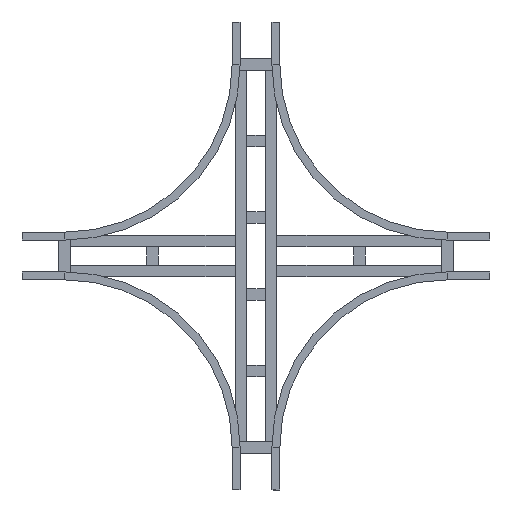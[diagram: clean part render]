
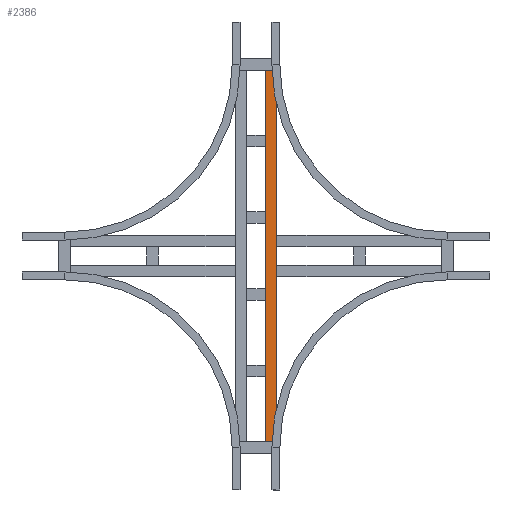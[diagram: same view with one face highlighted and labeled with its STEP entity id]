
A CAD part, front view. The second image highlights one B-rep face of the part: STEP entity #2386.
In plain terms, the highlighted planar face has unit normal (0, -1, 0).
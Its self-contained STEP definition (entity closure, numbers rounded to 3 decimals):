
#45 = LINE ( 'NONE', #2309, #1811 ) ;
#63 = FACE_OUTER_BOUND ( 'NONE', #1919, .T. ) ;
#91 = LINE ( 'NONE', #2608, #309 ) ;
#155 = DIRECTION ( 'NONE',  ( -1., 0., 0. ) ) ;
#232 = VERTEX_POINT ( 'NONE', #2638 ) ;
#309 = VECTOR ( 'NONE', #2225, 1000. ) ;
#382 = CARTESIAN_POINT ( 'NONE',  ( -654.75, 0., -20.25 ) ) ;
#444 = VECTOR ( 'NONE', #2651, 1000. ) ;
#472 = PLANE ( 'NONE',  #587 ) ;
#535 = VERTEX_POINT ( 'NONE', #2580 ) ;
#587 = AXIS2_PLACEMENT_3D ( 'NONE', #1326, #1301, #916 ) ;
#644 = VERTEX_POINT ( 'NONE', #382 ) ;
#902 = DIRECTION ( 'NONE',  ( 0., 0., -1. ) ) ;
#916 = DIRECTION ( 'NONE',  ( 0., 0., 1. ) ) ;
#1039 = VECTOR ( 'NONE', #155, 1000. ) ;
#1165 = LINE ( 'NONE', #1997, #1039 ) ;
#1301 = DIRECTION ( 'NONE',  ( 0., 1., 0. ) ) ;
#1326 = CARTESIAN_POINT ( 'NONE',  ( 654.75, 0., 20.25 ) ) ;
#1366 = LINE ( 'NONE', #1815, #444 ) ;
#1774 = CARTESIAN_POINT ( 'NONE',  ( 654.75, 0., -20.25 ) ) ;
#1811 = VECTOR ( 'NONE', #902, 1000. ) ;
#1815 = CARTESIAN_POINT ( 'NONE',  ( 654.75, 0., 20.25 ) ) ;
#1919 = EDGE_LOOP ( 'NONE', ( #2632, #2014, #2512, #2571 ) ) ;
#1997 = CARTESIAN_POINT ( 'NONE',  ( 654.75, 0., 20.25 ) ) ;
#2014 = ORIENTED_EDGE ( 'NONE', *, *, #2535, .F. ) ;
#2106 = EDGE_CURVE ( 'NONE', #232, #535, #1165, .T. ) ;
#2225 = DIRECTION ( 'NONE',  ( -1., 0., 0. ) ) ;
#2309 = CARTESIAN_POINT ( 'NONE',  ( -654.75, 0., 20.25 ) ) ;
#2386 = ADVANCED_FACE ( 'NONE', ( #63 ), #472, .F. ) ;
#2469 = EDGE_CURVE ( 'NONE', #535, #644, #45, .T. ) ;
#2512 = ORIENTED_EDGE ( 'NONE', *, *, #2635, .F. ) ;
#2535 = EDGE_CURVE ( 'NONE', #2616, #644, #91, .T. ) ;
#2571 = ORIENTED_EDGE ( 'NONE', *, *, #2106, .T. ) ;
#2580 = CARTESIAN_POINT ( 'NONE',  ( -654.75, 0., 20.25 ) ) ;
#2608 = CARTESIAN_POINT ( 'NONE',  ( 654.75, 0., -20.25 ) ) ;
#2616 = VERTEX_POINT ( 'NONE', #1774 ) ;
#2632 = ORIENTED_EDGE ( 'NONE', *, *, #2469, .T. ) ;
#2635 = EDGE_CURVE ( 'NONE', #232, #2616, #1366, .T. ) ;
#2638 = CARTESIAN_POINT ( 'NONE',  ( 654.75, 0., 20.25 ) ) ;
#2651 = DIRECTION ( 'NONE',  ( 0., 0., -1. ) ) ;
